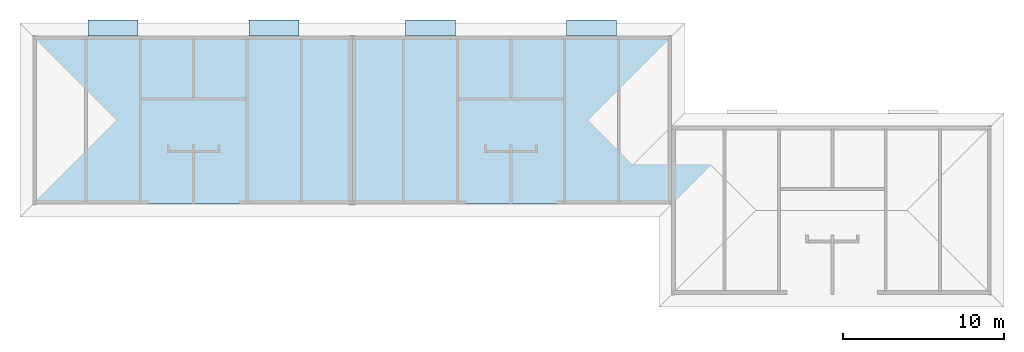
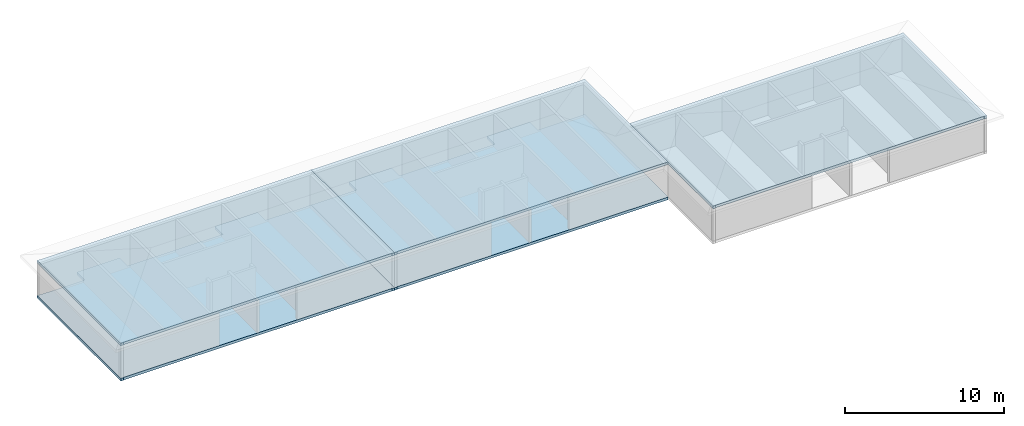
# One storey, part 7 of 10: 5 slabs.
"""IFC2X3 building model written with IfcOpenShell, lengths in metres."""

from ifc_helpers import new_model, si_unit, frame, origin, place, context, project, spatial, faceted_brep, element, save


model = new_model("IFC2X3")

# Units and contexts
model_context = context("Model", 3, precision=1e-06, world=origin())
ifc_project = project(units=[si_unit("LENGTHUNIT", "METRE"), si_unit("PLANEANGLEUNIT", "RADIAN")], contexts=[model_context])

# Site, building, storey
site = spatial("IfcSite", under=ifc_project, CompositionType="ELEMENT")
building = spatial("IfcBuilding", under=site, CompositionType="ELEMENT")
storey = spatial("IfcBuildingStorey", under=building, Name="r+3", CompositionType="ELEMENT", Elevation=8.1)

# Slabs
placement = place(None, origin())
slab_1_placement = place(placement, frame((19.849999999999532, 2e-15, 10.6), z_axis=(0.0, 0.0, 1.0), x_axis=(1.0, 0.0, 0.0)))
element("IfcSlab", 1, at=slab_1_placement, inside=storey, PredefinedType="USERDEFINED", context=model_context, shape_type="Brep", body=[
    faceted_brep([(0.180000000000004, 10.490077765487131, 0.2), (0.180000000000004, 10.470077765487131, 0.2), (0.180000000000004, 10.470077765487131, 0.0), (0.180000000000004, 10.490077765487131, 0.0), (0.180000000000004, 10.470077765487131, 0.2), (3.310000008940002, 10.47007768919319, 0.2), (3.310000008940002, 10.47007768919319, 0.0), (0.180000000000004, 10.470077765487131, 0.0), (3.310000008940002, 10.47007768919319, 0.2), (3.310401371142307, 10.47007761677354, 0.2), (3.310401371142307, 10.47007761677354, 0.0), (3.310000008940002, 10.47007768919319, 0.0), (3.310401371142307, 10.47007761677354, 0.2), (6.410401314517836, 10.47007761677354, 0.2), (6.410401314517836, 10.47007761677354, 0.0), (3.310401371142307, 10.47007761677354, 0.0), (6.410401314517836, 10.47007761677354, 0.2), (6.409999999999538, 10.47007775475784, 0.2), (6.409999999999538, 10.47007775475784, 0.0), (6.410401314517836, 10.47007761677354, 0.0), (6.409999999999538, 10.47007775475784, 0.2), (13.31999999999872, 10.47007768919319, 0.2), (13.31999999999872, 10.47007768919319, 0.0), (6.409999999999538, 10.47007775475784, 0.0), (13.31999999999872, 10.47007768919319, 0.2), (16.41999999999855, 10.470077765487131, 0.2), (16.41999999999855, 10.470077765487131, 0.0), (13.31999999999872, 10.47007768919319, 0.0), (16.41999999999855, 10.470077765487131, 0.2), (19.669999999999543, 10.470077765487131, 0.2), (19.669999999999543, 10.470077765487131, 0.0), (16.41999999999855, 10.470077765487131, 0.0), (19.669999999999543, 10.470077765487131, 0.2), (19.669999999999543, 10.490077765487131, 0.2), (19.669999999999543, 10.490077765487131, 0.0), (19.669999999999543, 10.470077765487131, 0.0), (19.669999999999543, 10.490077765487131, 0.2), (19.849999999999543, 10.490077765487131, 0.2), (19.849999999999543, 10.490077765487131, 0.0), (19.669999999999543, 10.490077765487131, 0.0), (19.849999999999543, 10.490077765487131, 0.2), (19.849999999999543, 0.020077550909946, 0.2), (19.849999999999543, 0.020077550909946, 0.0), (19.849999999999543, 10.490077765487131, 0.0), (19.849999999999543, 0.020077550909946, 0.2), (12.92499999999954, 0.020077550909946, 0.2), (12.92499999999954, 0.020077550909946, 0.0), (19.849999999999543, 0.020077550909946, 0.0), (12.92499999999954, 0.020077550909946, 0.2), (6.805000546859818, 0.020077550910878, 0.2), (6.805000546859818, 0.020077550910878, 0.0), (12.92499999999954, 0.020077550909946, 0.0), (6.805000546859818, 0.020077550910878, 0.2), (6.805000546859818, 0.020162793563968, 0.2), (6.805000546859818, 0.020162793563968, 0.0), (6.805000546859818, 0.020077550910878, 0.0), (6.805000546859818, 0.020162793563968, 0.2), (0.18, 0.020162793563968, 0.2), (0.18, 0.020162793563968, 0.0), (6.805000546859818, 0.020162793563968, 0.0), (0.18, 0.020162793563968, 0.2), (0.18, 0.0, 0.2), (0.18, 0.0, 0.0), (0.18, 0.020162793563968, 0.0), (0.18, 0.0, 0.2), (0.0, 0.0, 0.2), (0.0, 0.0, 0.0), (0.18, 0.0, 0.0), (0.0, 0.0, 0.2), (4e-15, 10.490077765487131, 0.2), (4e-15, 10.490077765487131, 0.0), (0.0, 0.0, 0.0), (4e-15, 10.490077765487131, 0.2), (0.180000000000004, 10.490077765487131, 0.2), (0.180000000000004, 10.490077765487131, 0.0), (4e-15, 10.490077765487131, 0.0), (0.180000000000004, 10.490077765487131, 0.2), (4e-15, 10.490077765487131, 0.2), (0.0, 0.0, 0.2), (0.18, 0.0, 0.2), (0.18, 0.020162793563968, 0.2), (6.805000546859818, 0.020162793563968, 0.2), (6.805000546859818, 0.020077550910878, 0.2), (12.92499999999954, 0.020077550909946, 0.2), (19.849999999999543, 0.020077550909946, 0.2), (19.849999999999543, 10.490077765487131, 0.2), (19.669999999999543, 10.490077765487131, 0.2), (19.669999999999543, 10.470077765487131, 0.2), (16.41999999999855, 10.470077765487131, 0.2), (13.31999999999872, 10.47007768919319, 0.2), (6.409999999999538, 10.47007775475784, 0.2), (6.410401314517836, 10.47007761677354, 0.2), (3.310401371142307, 10.47007761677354, 0.2), (3.310000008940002, 10.47007768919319, 0.2), (0.180000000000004, 10.470077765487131, 0.2), (0.180000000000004, 10.490077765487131, 0.0), (0.180000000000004, 10.470077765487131, 0.0), (3.310000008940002, 10.47007768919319, 0.0), (3.310401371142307, 10.47007761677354, 0.0), (6.410401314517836, 10.47007761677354, 0.0), (6.409999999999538, 10.47007775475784, 0.0), (13.31999999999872, 10.47007768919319, 0.0), (16.41999999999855, 10.470077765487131, 0.0), (19.669999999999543, 10.470077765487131, 0.0), (19.669999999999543, 10.490077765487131, 0.0), (19.849999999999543, 10.490077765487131, 0.0), (19.849999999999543, 0.020077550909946, 0.0), (12.92499999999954, 0.020077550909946, 0.0), (6.805000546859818, 0.020077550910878, 0.0), (6.805000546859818, 0.020162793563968, 0.0), (0.18, 0.020162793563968, 0.0), (0.18, 0.0, 0.0), (0.0, 0.0, 0.0), (4e-15, 10.490077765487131, 0.0)], [[[0, 1, 2, 3]], [[4, 5, 6, 7]], [[8, 9, 10, 11]], [[12, 13, 14, 15]], [[16, 17, 18, 19]], [[20, 21, 22, 23]], [[24, 25, 26, 27]], [[28, 29, 30, 31]], [[32, 33, 34, 35]], [[36, 37, 38, 39]], [[40, 41, 42, 43]], [[44, 45, 46, 47]], [[48, 49, 50, 51]], [[52, 53, 54, 55]], [[56, 57, 58, 59]], [[60, 61, 62, 63]], [[64, 65, 66, 67]], [[68, 69, 70, 71]], [[72, 73, 74, 75]], [[76, 77, 78, 79, 80, 81, 82, 83, 84, 85, 86, 87, 88, 89, 90, 91, 92, 93, 94]], [[95, 96, 97, 98, 99, 100, 101, 102, 103, 104, 105, 106, 107, 108, 109, 110, 111, 112, 113]]]),
])
slab_2_placement = place(placement, frame((-6e-15, 0.0, 7.9), z_axis=(0.0, 0.0, 1.0), x_axis=(1.0, 0.0, 0.0)))
element("IfcSlab", 2, at=slab_2_placement, inside=storey, PredefinedType="USERDEFINED", context=model_context, shape_type="Brep", body=[
    faceted_brep([(0.180000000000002, 10.49007776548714, 0.2), (0.180000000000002, 10.47007776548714, 0.2), (0.180000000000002, 10.47007776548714, 0.0), (0.180000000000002, 10.49007776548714, 0.0), (0.180000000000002, 10.47007776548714, 0.2), (3.430000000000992, 10.470077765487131, 0.2), (3.430000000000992, 10.470077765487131, 0.0), (0.180000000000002, 10.47007776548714, 0.0), (3.430000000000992, 10.470077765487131, 0.2), (3.430000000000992, 11.47007775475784, 0.2), (3.430000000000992, 11.47007775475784, 0.0), (3.430000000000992, 10.470077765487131, 0.0), (3.430000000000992, 11.47007775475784, 0.2), (6.530000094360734, 11.47007760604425, 0.2), (6.530000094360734, 11.47007760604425, 0.0), (3.430000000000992, 11.47007775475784, 0.0), (6.530000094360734, 11.47007760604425, 0.2), (6.530000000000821, 10.47007768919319, 0.2), (6.530000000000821, 10.47007768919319, 0.0), (6.530000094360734, 11.47007760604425, 0.0), (6.530000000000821, 10.47007768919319, 0.2), (13.44, 10.47007775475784, 0.2), (13.44, 10.47007775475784, 0.0), (6.530000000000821, 10.47007768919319, 0.0), (13.44, 10.47007775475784, 0.2), (13.439598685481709, 11.47007760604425, 0.2), (13.439598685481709, 11.47007760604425, 0.0), (13.44, 10.47007775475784, 0.0), (13.439598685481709, 11.47007760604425, 0.2), (16.539598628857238, 11.47007760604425, 0.2), (16.539598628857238, 11.47007760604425, 0.0), (13.439598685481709, 11.47007760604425, 0.0), (16.539598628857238, 11.47007760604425, 0.2), (16.53999999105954, 10.47007768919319, 0.2), (16.53999999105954, 10.47007768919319, 0.0), (16.539598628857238, 11.47007760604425, 0.0), (16.53999999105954, 10.47007768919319, 0.2), (19.669999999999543, 10.470077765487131, 0.2), (19.669999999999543, 10.470077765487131, 0.0), (16.53999999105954, 10.47007768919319, 0.0), (19.669999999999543, 10.470077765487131, 0.2), (19.669999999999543, 10.49007776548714, 0.2), (19.669999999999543, 10.49007776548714, 0.0), (19.669999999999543, 10.470077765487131, 0.0), (19.669999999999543, 10.49007776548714, 0.2), (19.849999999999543, 10.49007776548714, 0.2), (19.849999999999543, 10.49007776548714, 0.0), (19.669999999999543, 10.49007776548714, 0.0), (19.849999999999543, 10.49007776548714, 0.2), (19.849999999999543, 2e-15, 0.2), (19.849999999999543, 2e-15, 0.0), (19.849999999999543, 10.49007776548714, 0.0), (19.849999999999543, 2e-15, 0.2), (19.669999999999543, 2e-15, 0.2), (19.669999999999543, 2e-15, 0.0), (19.849999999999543, 2e-15, 0.0), (19.669999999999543, 2e-15, 0.2), (19.669999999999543, 0.02016279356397, 0.2), (19.669999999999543, 0.02016279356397, 0.0), (19.669999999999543, 2e-15, 0.0), (19.669999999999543, 0.02016279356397, 0.2), (13.045000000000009, 0.02016279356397, 0.2), (13.045000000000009, 0.02016279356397, 0.0), (19.669999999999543, 0.02016279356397, 0.0), (13.045000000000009, 0.02016279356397, 0.2), (6.925000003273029, 0.020077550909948, 0.2), (6.925000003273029, 0.020077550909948, 0.0), (13.045000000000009, 0.02016279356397, 0.0), (6.925000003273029, 0.020077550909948, 0.2), (0.18, 0.020077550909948, 0.2), (0.18, 0.020077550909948, 0.0), (6.925000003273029, 0.020077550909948, 0.0), (0.18, 0.020077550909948, 0.2), (0.18, 0.0, 0.2), (0.18, 0.0, 0.0), (0.18, 0.020077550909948, 0.0), (0.18, 0.0, 0.2), (0.0, 0.0, 0.2), (0.0, 0.0, 0.0), (0.18, 0.0, 0.0), (0.0, 0.0, 0.2), (2e-15, 10.49007776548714, 0.2), (2e-15, 10.49007776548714, 0.0), (0.0, 0.0, 0.0), (2e-15, 10.49007776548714, 0.2), (0.180000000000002, 10.49007776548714, 0.2), (0.180000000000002, 10.49007776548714, 0.0), (2e-15, 10.49007776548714, 0.0), (0.180000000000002, 10.49007776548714, 0.2), (2e-15, 10.49007776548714, 0.2), (0.0, 0.0, 0.2), (0.18, 0.0, 0.2), (0.18, 0.020077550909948, 0.2), (6.925000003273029, 0.020077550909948, 0.2), (13.045000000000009, 0.02016279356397, 0.2), (19.669999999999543, 0.02016279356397, 0.2), (19.669999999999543, 2e-15, 0.2), (19.849999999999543, 2e-15, 0.2), (19.849999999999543, 10.49007776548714, 0.2), (19.669999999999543, 10.49007776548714, 0.2), (19.669999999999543, 10.470077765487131, 0.2), (16.53999999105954, 10.47007768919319, 0.2), (16.539598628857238, 11.47007760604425, 0.2), (13.439598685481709, 11.47007760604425, 0.2), (13.44, 10.47007775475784, 0.2), (6.530000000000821, 10.47007768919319, 0.2), (6.530000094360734, 11.47007760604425, 0.2), (3.430000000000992, 11.47007775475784, 0.2), (3.430000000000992, 10.470077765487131, 0.2), (0.180000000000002, 10.47007776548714, 0.2), (0.180000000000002, 10.49007776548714, 0.0), (0.180000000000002, 10.47007776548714, 0.0), (3.430000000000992, 10.470077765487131, 0.0), (3.430000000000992, 11.47007775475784, 0.0), (6.530000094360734, 11.47007760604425, 0.0), (6.530000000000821, 10.47007768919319, 0.0), (13.44, 10.47007775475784, 0.0), (13.439598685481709, 11.47007760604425, 0.0), (16.539598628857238, 11.47007760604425, 0.0), (16.53999999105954, 10.47007768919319, 0.0), (19.669999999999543, 10.470077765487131, 0.0), (19.669999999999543, 10.49007776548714, 0.0), (19.849999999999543, 10.49007776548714, 0.0), (19.849999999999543, 2e-15, 0.0), (19.669999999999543, 2e-15, 0.0), (19.669999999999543, 0.02016279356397, 0.0), (13.045000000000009, 0.02016279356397, 0.0), (6.925000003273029, 0.020077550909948, 0.0), (0.18, 0.020077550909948, 0.0), (0.18, 0.0, 0.0), (0.0, 0.0, 0.0), (2e-15, 10.49007776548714, 0.0)], [[[0, 1, 2, 3]], [[4, 5, 6, 7]], [[8, 9, 10, 11]], [[12, 13, 14, 15]], [[16, 17, 18, 19]], [[20, 21, 22, 23]], [[24, 25, 26, 27]], [[28, 29, 30, 31]], [[32, 33, 34, 35]], [[36, 37, 38, 39]], [[40, 41, 42, 43]], [[44, 45, 46, 47]], [[48, 49, 50, 51]], [[52, 53, 54, 55]], [[56, 57, 58, 59]], [[60, 61, 62, 63]], [[64, 65, 66, 67]], [[68, 69, 70, 71]], [[72, 73, 74, 75]], [[76, 77, 78, 79]], [[80, 81, 82, 83]], [[84, 85, 86, 87]], [[88, 89, 90, 91, 92, 93, 94, 95, 96, 97, 98, 99, 100, 101, 102, 103, 104, 105, 106, 107, 108, 109]], [[110, 111, 112, 113, 114, 115, 116, 117, 118, 119, 120, 121, 122, 123, 124, 125, 126, 127, 128, 129, 130, 131]]]),
])
slab_3_placement = place(placement, frame((39.69999999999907, -5.599999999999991, 10.6), z_axis=(0.0, 0.0, 1.0), x_axis=(1.0, 0.0, 0.0)))
element("IfcSlab", 3, at=slab_3_placement, inside=storey, PredefinedType="USERDEFINED", context=model_context, shape_type="Brep", body=[
    faceted_brep([(0.18, 10.47007776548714, 0.2), (3.430000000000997, 10.470077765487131, 0.2), (3.430000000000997, 10.470077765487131, 0.0), (0.18, 10.47007776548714, 0.0), (3.430000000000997, 10.470077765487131, 0.2), (3.430401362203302, 10.47007783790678, 0.2), (3.430401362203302, 10.47007783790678, 0.0), (3.430000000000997, 10.470077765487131, 0.0), (3.430401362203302, 10.47007783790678, 0.2), (6.53033516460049, 10.470077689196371, 0.2), (6.53033516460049, 10.470077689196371, 0.0), (3.430401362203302, 10.47007783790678, 0.0), (6.53033516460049, 10.470077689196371, 0.2), (13.44000000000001, 10.47007775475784, 0.2), (13.44000000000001, 10.47007775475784, 0.0), (6.53033516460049, 10.470077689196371, 0.0), (13.44000000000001, 10.47007775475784, 0.2), (16.53999999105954, 10.47007768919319, 0.2), (16.53999999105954, 10.47007768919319, 0.0), (13.44000000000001, 10.47007775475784, 0.0), (16.53999999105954, 10.47007768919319, 0.2), (19.669999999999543, 10.470077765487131, 0.2), (19.669999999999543, 10.470077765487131, 0.0), (16.53999999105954, 10.47007768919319, 0.0), (19.669999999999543, 10.470077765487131, 0.2), (19.669999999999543, 10.49007776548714, 0.2), (19.669999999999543, 10.49007776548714, 0.0), (19.669999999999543, 10.470077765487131, 0.0), (19.669999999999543, 10.49007776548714, 0.2), (19.849999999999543, 10.49007776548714, 0.2), (19.849999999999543, 10.49007776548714, 0.0), (19.669999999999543, 10.49007776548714, 0.0), (19.849999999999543, 10.49007776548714, 0.2), (19.849999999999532, 2e-15, 0.2), (19.849999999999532, 2e-15, 0.0), (19.849999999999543, 10.49007776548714, 0.0), (19.849999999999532, 2e-15, 0.2), (19.669999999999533, 2e-15, 0.2), (19.669999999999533, 2e-15, 0.0), (19.849999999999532, 2e-15, 0.0), (19.669999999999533, 2e-15, 0.2), (19.669999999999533, 0.02016279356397, 0.2), (19.669999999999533, 0.02016279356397, 0.0), (19.669999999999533, 2e-15, 0.0), (19.669999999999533, 0.02016279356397, 0.2), (13.04500000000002, 0.02016279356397, 0.2), (13.04500000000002, 0.02016279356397, 0.0), (19.669999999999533, 0.02016279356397, 0.0), (13.04500000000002, 0.02016279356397, 0.2), (6.925000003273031, 0.020077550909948, 0.2), (6.925000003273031, 0.020077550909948, 0.0), (13.04500000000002, 0.02016279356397, 0.0), (6.925000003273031, 0.020077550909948, 0.2), (0.18, 0.020077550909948, 0.2), (0.18, 0.020077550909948, 0.0), (6.925000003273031, 0.020077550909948, 0.0), (0.18, 0.020077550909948, 0.2), (0.18, 0.0, 0.2), (0.18, 0.0, 0.0), (0.18, 0.020077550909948, 0.0), (0.18, 0.0, 0.2), (0.0, 0.0, 0.2), (0.0, 0.0, 0.0), (0.18, 0.0, 0.0), (0.0, 0.0, 0.2), (7e-15, 10.47007776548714, 0.2), (7e-15, 10.47007776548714, 0.0), (0.0, 0.0, 0.0), (7e-15, 10.47007776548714, 0.2), (0.18, 10.47007776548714, 0.2), (0.18, 10.47007776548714, 0.0), (7e-15, 10.47007776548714, 0.0), (0.18, 10.47007776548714, 0.2), (7e-15, 10.47007776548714, 0.2), (0.0, 0.0, 0.2), (0.18, 0.0, 0.2), (0.18, 0.020077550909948, 0.2), (6.925000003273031, 0.020077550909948, 0.2), (13.04500000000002, 0.02016279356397, 0.2), (19.669999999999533, 0.02016279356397, 0.2), (19.669999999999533, 2e-15, 0.2), (19.849999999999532, 2e-15, 0.2), (19.849999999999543, 10.49007776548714, 0.2), (19.669999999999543, 10.49007776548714, 0.2), (19.669999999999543, 10.470077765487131, 0.2), (16.53999999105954, 10.47007768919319, 0.2), (13.44000000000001, 10.47007775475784, 0.2), (6.53033516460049, 10.470077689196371, 0.2), (3.430401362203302, 10.47007783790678, 0.2), (3.430000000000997, 10.470077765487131, 0.2), (0.18, 10.47007776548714, 0.0), (3.430000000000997, 10.470077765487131, 0.0), (3.430401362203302, 10.47007783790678, 0.0), (6.53033516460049, 10.470077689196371, 0.0), (13.44000000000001, 10.47007775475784, 0.0), (16.53999999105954, 10.47007768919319, 0.0), (19.669999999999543, 10.470077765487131, 0.0), (19.669999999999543, 10.49007776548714, 0.0), (19.849999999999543, 10.49007776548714, 0.0), (19.849999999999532, 2e-15, 0.0), (19.669999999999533, 2e-15, 0.0), (19.669999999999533, 0.02016279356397, 0.0), (13.04500000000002, 0.02016279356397, 0.0), (6.925000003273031, 0.020077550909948, 0.0), (0.18, 0.020077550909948, 0.0), (0.18, 0.0, 0.0), (0.0, 0.0, 0.0), (7e-15, 10.47007776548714, 0.0)], [[[0, 1, 2, 3]], [[4, 5, 6, 7]], [[8, 9, 10, 11]], [[12, 13, 14, 15]], [[16, 17, 18, 19]], [[20, 21, 22, 23]], [[24, 25, 26, 27]], [[28, 29, 30, 31]], [[32, 33, 34, 35]], [[36, 37, 38, 39]], [[40, 41, 42, 43]], [[44, 45, 46, 47]], [[48, 49, 50, 51]], [[52, 53, 54, 55]], [[56, 57, 58, 59]], [[60, 61, 62, 63]], [[64, 65, 66, 67]], [[68, 69, 70, 71]], [[72, 73, 74, 75, 76, 77, 78, 79, 80, 81, 82, 83, 84, 85, 86, 87, 88, 89]], [[90, 91, 92, 93, 94, 95, 96, 97, 98, 99, 100, 101, 102, 103, 104, 105, 106, 107]]]),
])
slab_4_placement = place(placement, frame((19.849999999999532, 2e-15, 7.9), z_axis=(0.0, 0.0, 1.0), x_axis=(1.0, 0.0, 0.0)))
element("IfcSlab", 4, at=slab_4_placement, inside=storey, PredefinedType="USERDEFINED", context=model_context, shape_type="Brep", body=[
    faceted_brep([(0.180000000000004, 10.490077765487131, 0.2), (0.180000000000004, 10.470077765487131, 0.2), (0.180000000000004, 10.470077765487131, 0.0), (0.180000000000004, 10.490077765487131, 0.0), (0.180000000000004, 10.470077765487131, 0.2), (3.310000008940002, 10.47007768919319, 0.2), (3.310000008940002, 10.47007768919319, 0.0), (0.180000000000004, 10.470077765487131, 0.0), (3.310000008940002, 10.47007768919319, 0.2), (3.310401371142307, 11.47007760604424, 0.2), (3.310401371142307, 11.47007760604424, 0.0), (3.310000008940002, 10.47007768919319, 0.0), (3.310401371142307, 11.47007760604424, 0.2), (6.410401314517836, 11.47007760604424, 0.2), (6.410401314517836, 11.47007760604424, 0.0), (3.310401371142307, 11.47007760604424, 0.0), (6.410401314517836, 11.47007760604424, 0.2), (6.409999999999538, 10.47007775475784, 0.2), (6.409999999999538, 10.47007775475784, 0.0), (6.410401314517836, 11.47007760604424, 0.0), (6.409999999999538, 10.47007775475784, 0.2), (13.31999999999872, 10.47007768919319, 0.2), (13.31999999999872, 10.47007768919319, 0.0), (6.409999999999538, 10.47007775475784, 0.0), (13.31999999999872, 10.47007768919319, 0.2), (13.31999990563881, 11.47007760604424, 0.2), (13.31999990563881, 11.47007760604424, 0.0), (13.31999999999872, 10.47007768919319, 0.0), (13.31999990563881, 11.47007760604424, 0.2), (16.41999999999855, 11.47007775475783, 0.2), (16.41999999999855, 11.47007775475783, 0.0), (13.31999990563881, 11.47007760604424, 0.0), (16.41999999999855, 11.47007775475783, 0.2), (16.41999999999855, 10.470077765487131, 0.2), (16.41999999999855, 10.470077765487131, 0.0), (16.41999999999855, 11.47007775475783, 0.0), (16.41999999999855, 10.470077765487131, 0.2), (19.669999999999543, 10.470077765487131, 0.2), (19.669999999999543, 10.470077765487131, 0.0), (16.41999999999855, 10.470077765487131, 0.0), (19.669999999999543, 10.470077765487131, 0.2), (19.669999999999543, 10.490077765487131, 0.2), (19.669999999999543, 10.490077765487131, 0.0), (19.669999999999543, 10.470077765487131, 0.0), (19.669999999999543, 10.490077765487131, 0.2), (19.849999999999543, 10.490077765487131, 0.2), (19.849999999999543, 10.490077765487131, 0.0), (19.669999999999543, 10.490077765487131, 0.0), (19.849999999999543, 10.490077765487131, 0.2), (19.849999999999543, 0.020077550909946, 0.2), (19.849999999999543, 0.020077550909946, 0.0), (19.849999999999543, 10.490077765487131, 0.0), (19.849999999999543, 0.020077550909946, 0.2), (12.92499999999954, 0.020077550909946, 0.2), (12.92499999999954, 0.020077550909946, 0.0), (19.849999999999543, 0.020077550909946, 0.0), (12.92499999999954, 0.020077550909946, 0.2), (6.805000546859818, 0.020077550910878, 0.2), (6.805000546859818, 0.020077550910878, 0.0), (12.92499999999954, 0.020077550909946, 0.0), (6.805000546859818, 0.020077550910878, 0.2), (6.805000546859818, 0.020162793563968, 0.2), (6.805000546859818, 0.020162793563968, 0.0), (6.805000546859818, 0.020077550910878, 0.0), (6.805000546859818, 0.020162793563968, 0.2), (0.18, 0.020162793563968, 0.2), (0.18, 0.020162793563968, 0.0), (6.805000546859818, 0.020162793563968, 0.0), (0.18, 0.020162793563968, 0.2), (0.18, 0.0, 0.2), (0.18, 0.0, 0.0), (0.18, 0.020162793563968, 0.0), (0.18, 0.0, 0.2), (0.0, 0.0, 0.2), (0.0, 0.0, 0.0), (0.18, 0.0, 0.0), (0.0, 0.0, 0.2), (4e-15, 10.490077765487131, 0.2), (4e-15, 10.490077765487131, 0.0), (0.0, 0.0, 0.0), (4e-15, 10.490077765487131, 0.2), (0.180000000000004, 10.490077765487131, 0.2), (0.180000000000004, 10.490077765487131, 0.0), (4e-15, 10.490077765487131, 0.0), (0.180000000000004, 10.490077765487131, 0.2), (4e-15, 10.490077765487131, 0.2), (0.0, 0.0, 0.2), (0.18, 0.0, 0.2), (0.18, 0.020162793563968, 0.2), (6.805000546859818, 0.020162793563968, 0.2), (6.805000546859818, 0.020077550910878, 0.2), (12.92499999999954, 0.020077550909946, 0.2), (19.849999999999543, 0.020077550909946, 0.2), (19.849999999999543, 10.490077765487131, 0.2), (19.669999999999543, 10.490077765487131, 0.2), (19.669999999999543, 10.470077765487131, 0.2), (16.41999999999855, 10.470077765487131, 0.2), (16.41999999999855, 11.47007775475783, 0.2), (13.31999990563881, 11.47007760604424, 0.2), (13.31999999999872, 10.47007768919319, 0.2), (6.409999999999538, 10.47007775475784, 0.2), (6.410401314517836, 11.47007760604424, 0.2), (3.310401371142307, 11.47007760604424, 0.2), (3.310000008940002, 10.47007768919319, 0.2), (0.180000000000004, 10.470077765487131, 0.2), (0.180000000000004, 10.490077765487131, 0.0), (0.180000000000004, 10.470077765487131, 0.0), (3.310000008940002, 10.47007768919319, 0.0), (3.310401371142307, 11.47007760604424, 0.0), (6.410401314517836, 11.47007760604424, 0.0), (6.409999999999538, 10.47007775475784, 0.0), (13.31999999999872, 10.47007768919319, 0.0), (13.31999990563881, 11.47007760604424, 0.0), (16.41999999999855, 11.47007775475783, 0.0), (16.41999999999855, 10.470077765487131, 0.0), (19.669999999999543, 10.470077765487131, 0.0), (19.669999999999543, 10.490077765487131, 0.0), (19.849999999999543, 10.490077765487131, 0.0), (19.849999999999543, 0.020077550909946, 0.0), (12.92499999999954, 0.020077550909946, 0.0), (6.805000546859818, 0.020077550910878, 0.0), (6.805000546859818, 0.020162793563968, 0.0), (0.18, 0.020162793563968, 0.0), (0.18, 0.0, 0.0), (0.0, 0.0, 0.0), (4e-15, 10.490077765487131, 0.0)], [[[0, 1, 2, 3]], [[4, 5, 6, 7]], [[8, 9, 10, 11]], [[12, 13, 14, 15]], [[16, 17, 18, 19]], [[20, 21, 22, 23]], [[24, 25, 26, 27]], [[28, 29, 30, 31]], [[32, 33, 34, 35]], [[36, 37, 38, 39]], [[40, 41, 42, 43]], [[44, 45, 46, 47]], [[48, 49, 50, 51]], [[52, 53, 54, 55]], [[56, 57, 58, 59]], [[60, 61, 62, 63]], [[64, 65, 66, 67]], [[68, 69, 70, 71]], [[72, 73, 74, 75]], [[76, 77, 78, 79]], [[80, 81, 82, 83]], [[84, 85, 86, 87, 88, 89, 90, 91, 92, 93, 94, 95, 96, 97, 98, 99, 100, 101, 102, 103, 104]], [[105, 106, 107, 108, 109, 110, 111, 112, 113, 114, 115, 116, 117, 118, 119, 120, 121, 122, 123, 124, 125]]]),
])
slab_5_placement = place(placement, frame((-6e-15, 0.0, 10.6), z_axis=(0.0, 0.0, 1.0), x_axis=(1.0, 0.0, 0.0)))
element("IfcSlab", 5, at=slab_5_placement, inside=storey, PredefinedType="USERDEFINED", context=model_context, shape_type="Brep", body=[
    faceted_brep([(0.180000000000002, 10.49007776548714, 0.2), (0.180000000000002, 10.47007776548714, 0.2), (0.180000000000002, 10.47007776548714, 0.0), (0.180000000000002, 10.49007776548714, 0.0), (0.180000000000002, 10.47007776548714, 0.2), (3.430000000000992, 10.470077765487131, 0.2), (3.430000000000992, 10.470077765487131, 0.0), (0.180000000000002, 10.47007776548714, 0.0), (3.430000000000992, 10.470077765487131, 0.2), (6.530000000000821, 10.47007768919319, 0.2), (6.530000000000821, 10.47007768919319, 0.0), (3.430000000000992, 10.470077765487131, 0.0), (6.530000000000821, 10.47007768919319, 0.2), (13.44, 10.47007775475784, 0.2), (13.44, 10.47007775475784, 0.0), (6.530000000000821, 10.47007768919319, 0.0), (13.44, 10.47007775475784, 0.2), (13.439598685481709, 10.47007761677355, 0.2), (13.439598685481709, 10.47007761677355, 0.0), (13.44, 10.47007775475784, 0.0), (13.439598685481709, 10.47007761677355, 0.2), (16.539598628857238, 10.47007761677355, 0.2), (16.539598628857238, 10.47007761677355, 0.0), (13.439598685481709, 10.47007761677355, 0.0), (16.539598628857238, 10.47007761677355, 0.2), (16.53999999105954, 10.47007768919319, 0.2), (16.53999999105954, 10.47007768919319, 0.0), (16.539598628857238, 10.47007761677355, 0.0), (16.53999999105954, 10.47007768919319, 0.2), (19.669999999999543, 10.470077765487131, 0.2), (19.669999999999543, 10.470077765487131, 0.0), (16.53999999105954, 10.47007768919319, 0.0), (19.669999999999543, 10.470077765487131, 0.2), (19.669999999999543, 10.49007776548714, 0.2), (19.669999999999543, 10.49007776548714, 0.0), (19.669999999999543, 10.470077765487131, 0.0), (19.669999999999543, 10.49007776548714, 0.2), (19.849999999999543, 10.49007776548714, 0.2), (19.849999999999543, 10.49007776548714, 0.0), (19.669999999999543, 10.49007776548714, 0.0), (19.849999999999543, 10.49007776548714, 0.2), (19.849999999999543, 2e-15, 0.2), (19.849999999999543, 2e-15, 0.0), (19.849999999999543, 10.49007776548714, 0.0), (19.849999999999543, 2e-15, 0.2), (19.669999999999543, 2e-15, 0.2), (19.669999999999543, 2e-15, 0.0), (19.849999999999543, 2e-15, 0.0), (19.669999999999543, 2e-15, 0.2), (19.669999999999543, 0.02016279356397, 0.2), (19.669999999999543, 0.02016279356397, 0.0), (19.669999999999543, 2e-15, 0.0), (19.669999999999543, 0.02016279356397, 0.2), (13.045000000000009, 0.02016279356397, 0.2), (13.045000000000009, 0.02016279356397, 0.0), (19.669999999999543, 0.02016279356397, 0.0), (13.045000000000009, 0.02016279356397, 0.2), (6.925000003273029, 0.020077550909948, 0.2), (6.925000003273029, 0.020077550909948, 0.0), (13.045000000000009, 0.02016279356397, 0.0), (6.925000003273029, 0.020077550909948, 0.2), (0.18, 0.020077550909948, 0.2), (0.18, 0.020077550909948, 0.0), (6.925000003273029, 0.020077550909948, 0.0), (0.18, 0.020077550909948, 0.2), (0.18, 0.0, 0.2), (0.18, 0.0, 0.0), (0.18, 0.020077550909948, 0.0), (0.18, 0.0, 0.2), (0.0, 0.0, 0.2), (0.0, 0.0, 0.0), (0.18, 0.0, 0.0), (0.0, 0.0, 0.2), (2e-15, 10.49007776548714, 0.2), (2e-15, 10.49007776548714, 0.0), (0.0, 0.0, 0.0), (2e-15, 10.49007776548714, 0.2), (0.180000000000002, 10.49007776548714, 0.2), (0.180000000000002, 10.49007776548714, 0.0), (2e-15, 10.49007776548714, 0.0), (0.180000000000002, 10.49007776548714, 0.2), (2e-15, 10.49007776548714, 0.2), (0.0, 0.0, 0.2), (0.18, 0.0, 0.2), (0.18, 0.020077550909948, 0.2), (6.925000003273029, 0.020077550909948, 0.2), (13.045000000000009, 0.02016279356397, 0.2), (19.669999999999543, 0.02016279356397, 0.2), (19.669999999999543, 2e-15, 0.2), (19.849999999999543, 2e-15, 0.2), (19.849999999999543, 10.49007776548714, 0.2), (19.669999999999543, 10.49007776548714, 0.2), (19.669999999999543, 10.470077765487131, 0.2), (16.53999999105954, 10.47007768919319, 0.2), (16.539598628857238, 10.47007761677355, 0.2), (13.439598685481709, 10.47007761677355, 0.2), (13.44, 10.47007775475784, 0.2), (6.530000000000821, 10.47007768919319, 0.2), (3.430000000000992, 10.470077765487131, 0.2), (0.180000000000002, 10.47007776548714, 0.2), (0.180000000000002, 10.49007776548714, 0.0), (0.180000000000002, 10.47007776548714, 0.0), (3.430000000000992, 10.470077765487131, 0.0), (6.530000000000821, 10.47007768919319, 0.0), (13.44, 10.47007775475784, 0.0), (13.439598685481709, 10.47007761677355, 0.0), (16.539598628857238, 10.47007761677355, 0.0), (16.53999999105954, 10.47007768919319, 0.0), (19.669999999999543, 10.470077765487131, 0.0), (19.669999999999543, 10.49007776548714, 0.0), (19.849999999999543, 10.49007776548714, 0.0), (19.849999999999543, 2e-15, 0.0), (19.669999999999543, 2e-15, 0.0), (19.669999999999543, 0.02016279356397, 0.0), (13.045000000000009, 0.02016279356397, 0.0), (6.925000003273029, 0.020077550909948, 0.0), (0.18, 0.020077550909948, 0.0), (0.18, 0.0, 0.0), (0.0, 0.0, 0.0), (2e-15, 10.49007776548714, 0.0)], [[[0, 1, 2, 3]], [[4, 5, 6, 7]], [[8, 9, 10, 11]], [[12, 13, 14, 15]], [[16, 17, 18, 19]], [[20, 21, 22, 23]], [[24, 25, 26, 27]], [[28, 29, 30, 31]], [[32, 33, 34, 35]], [[36, 37, 38, 39]], [[40, 41, 42, 43]], [[44, 45, 46, 47]], [[48, 49, 50, 51]], [[52, 53, 54, 55]], [[56, 57, 58, 59]], [[60, 61, 62, 63]], [[64, 65, 66, 67]], [[68, 69, 70, 71]], [[72, 73, 74, 75]], [[76, 77, 78, 79]], [[80, 81, 82, 83, 84, 85, 86, 87, 88, 89, 90, 91, 92, 93, 94, 95, 96, 97, 98, 99]], [[100, 101, 102, 103, 104, 105, 106, 107, 108, 109, 110, 111, 112, 113, 114, 115, 116, 117, 118, 119]]]),
])

save(model, "model.ifc")
